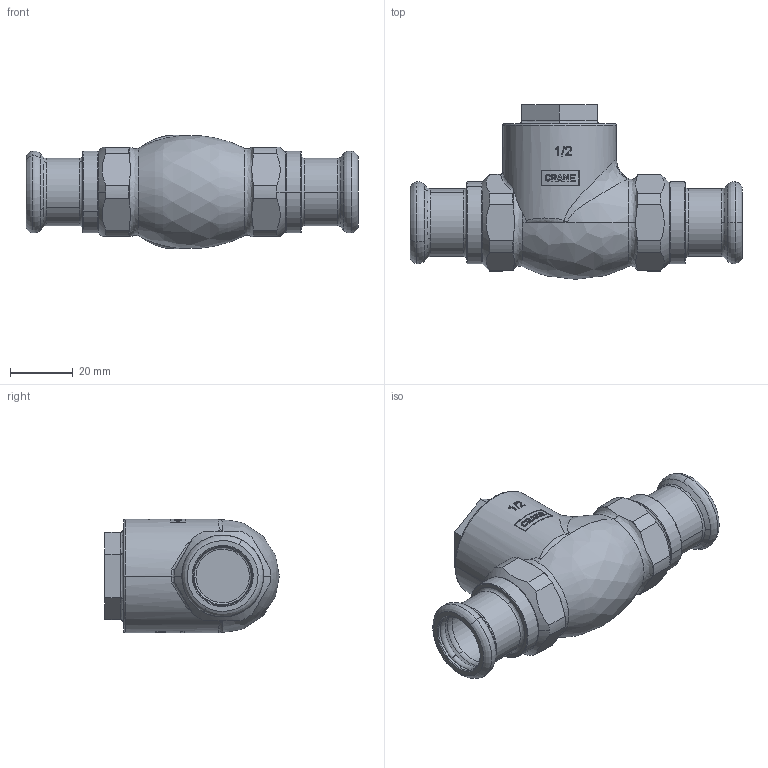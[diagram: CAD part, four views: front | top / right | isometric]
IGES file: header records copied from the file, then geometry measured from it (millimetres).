
Global section: file name: No Iges File Name specified; native system: AutoDesk Inventor R12.0; preprocessor: AutoDesk Inventor Iges Exporter R12.0; date: 20110823.121909; units: millimetre
Bounding box: 105.5 x 55.5 x 36.2 mm (x, y, z)
Volume: 61600.3 mm3; surface area: 22543.3 mm2
Topology: 1 solids, 4 shells, 502 faces, 1371 edges, 901 vertices
Faces by surface type: bspline 247, plane 126, revolution 42, cylinder 41, cone 28, torus 18
